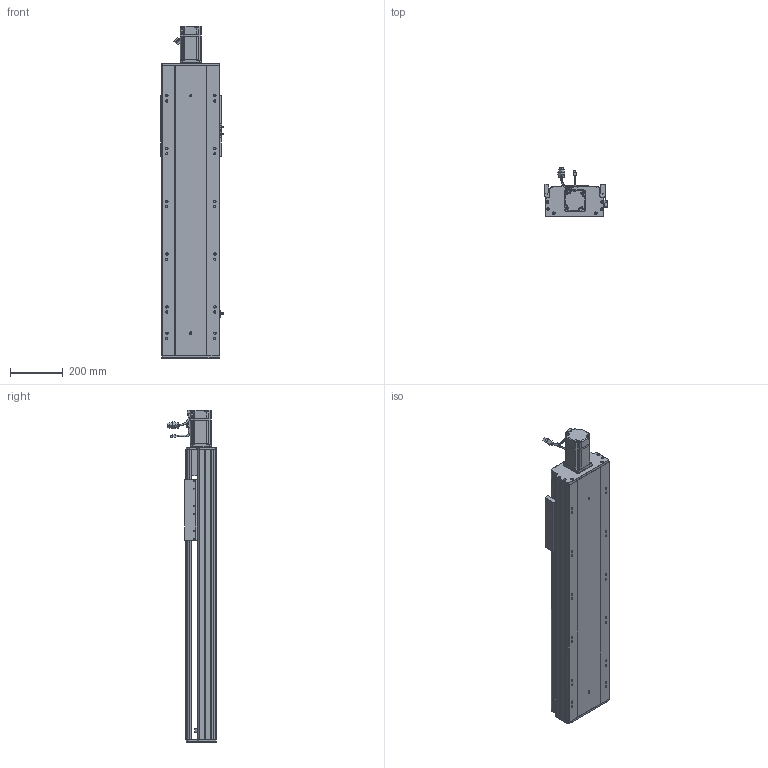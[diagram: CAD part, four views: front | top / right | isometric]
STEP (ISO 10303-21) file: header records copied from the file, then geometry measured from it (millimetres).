
FILE_DESCRIPTION (( 'STEP AP203' ), '1' );
FILE_NAME ('RY220-L2525-300-MK.SLDASM_700.step', '2022-07-04T02:57:36', ( '' ), ( '' ), 'SwSTEP 2.0', 'SolidWorks 2016', '' );
FILE_SCHEMA (( 'CONFIG_CONTROL_DESIGN' ));
Length unit declared in the file: millimetre
Products named in the file (12): RY220綴裔啣; RY220-俋离672覜茼んえ; RY220ヶ裔啣; 滅袉蝶18-15; RY220-300-奻裔啣-MK_700; 滅袉蝶18-12; RY220电机支撑座FK20（PCD90M6）; 覜茼ん672; RY220菁釱MK-300_700; RY220半封闭25-32螺母铝滑块; 怢湛750W_ECMA-CX0807ES; RY220-L2525-300-MK.SLDASM_700
Assembly tree (15 placements, depth 2):
  RY220-L2525-300-MK.SLDASM_700
    RY220菁釱MK-300_700
    RY220电机支撑座FK20（PCD90M6）
    怢湛750W_ECMA-CX0807ES
    滅袉蝶18-12  x2
    RY220ヶ裔啣
    RY220綴裔啣
    覜茼ん672  x3
    RY220半封闭25-32螺母铝滑块
    RY220-300-奻裔啣-MK_700
    RY220-俋离672覜茼んえ
    滅袉蝶18-15  x2
Bounding box: 238.7 x 187.27 x 1258.3 mm (x, y, z)
Volume: 10429109.4 mm3; surface area: 2799760 mm2
Topology: 16 solids, 16 shells, 2160 faces, 5986 edges, 3790 vertices
Faces by surface type: cylinder 962, plane 907, cone 229, bspline 36, sphere 16, torus 10
Entity records: 71010 total; most frequent: CARTESIAN_POINT 20265, ORIENTED_EDGE 10552, DIRECTION 9927, EDGE_CURVE 5276, AXIS2_PLACEMENT_3D 3477, VERTEX_POINT 3446, VECTOR 2973, LINE 2973
